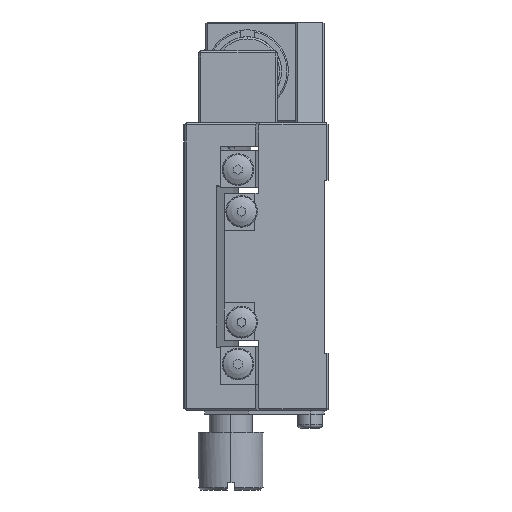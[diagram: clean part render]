
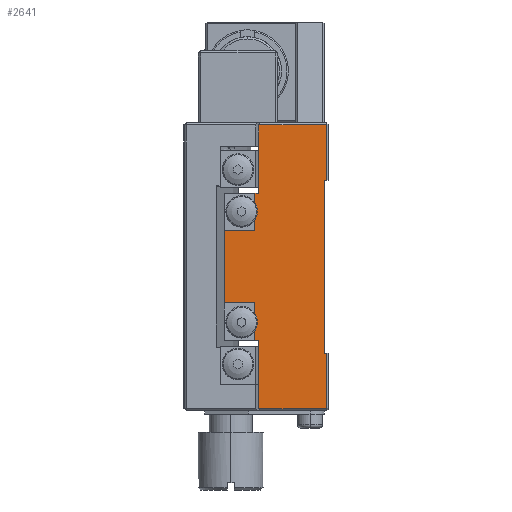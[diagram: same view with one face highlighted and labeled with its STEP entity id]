
A CAD part, left-side view. The second image highlights one B-rep face of the part: STEP entity #2641.
In plain terms, the highlighted planar face has unit normal (-1, 0, 0).
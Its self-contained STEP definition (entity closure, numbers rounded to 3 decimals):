
#311 = VERTEX_POINT ( 'NONE', #12785 ) ;
#324 = DIRECTION ( 'NONE',  ( 0., 0., -1. ) ) ;
#416 = VECTOR ( 'NONE', #7600, 1000. ) ;
#481 = ORIENTED_EDGE ( 'NONE', *, *, #21973, .T. ) ;
#528 = VERTEX_POINT ( 'NONE', #4885 ) ;
#856 = VECTOR ( 'NONE', #5298, 1000. ) ;
#901 = DIRECTION ( 'NONE',  ( 0., -1., 0. ) ) ;
#1108 = ORIENTED_EDGE ( 'NONE', *, *, #21979, .F. ) ;
#1208 = LINE ( 'NONE', #20972, #5024 ) ;
#1220 = VERTEX_POINT ( 'NONE', #11792 ) ;
#1706 = LINE ( 'NONE', #7219, #3067 ) ;
#1873 = ORIENTED_EDGE ( 'NONE', *, *, #19338, .T. ) ;
#2079 = LINE ( 'NONE', #3969, #6743 ) ;
#2199 = EDGE_CURVE ( 'NONE', #3575, #11381, #3131, .T. ) ;
#2272 = VERTEX_POINT ( 'NONE', #8780 ) ;
#2550 = CARTESIAN_POINT ( 'NONE',  ( -20., 9.625, 20. ) ) ;
#2580 = ORIENTED_EDGE ( 'NONE', *, *, #3264, .T. ) ;
#2641 = ADVANCED_FACE ( 'NONE', ( #23062 ), #8155, .F. ) ;
#2784 = LINE ( 'NONE', #16534, #8698 ) ;
#2872 = CARTESIAN_POINT ( 'NONE',  ( -20., 0., 20. ) ) ;
#3067 = VECTOR ( 'NONE', #14525, 1000. ) ;
#3109 = ORIENTED_EDGE ( 'NONE', *, *, #8573, .T. ) ;
#3131 = LINE ( 'NONE', #17583, #17515 ) ;
#3230 = EDGE_CURVE ( 'NONE', #3575, #311, #2079, .T. ) ;
#3264 = EDGE_CURVE ( 'NONE', #528, #14890, #9720, .T. ) ;
#3305 = ORIENTED_EDGE ( 'NONE', *, *, #13864, .F. ) ;
#3358 = CARTESIAN_POINT ( 'NONE',  ( -20., 10.142, 10.2 ) ) ;
#3360 = VECTOR ( 'NONE', #21339, 1000. ) ;
#3575 = VERTEX_POINT ( 'NONE', #9792 ) ;
#3969 = CARTESIAN_POINT ( 'NONE',  ( -20., 10.142, -50.388 ) ) ;
#4539 = LINE ( 'NONE', #7940, #416 ) ;
#4562 = EDGE_CURVE ( 'NONE', #2272, #11092, #18508, .T. ) ;
#4885 = CARTESIAN_POINT ( 'NONE',  ( -20., 9.625, 19.7 ) ) ;
#5024 = VECTOR ( 'NONE', #22612, 1000. ) ;
#5157 = EDGE_CURVE ( 'NONE', #22213, #9610, #9903, .T. ) ;
#5205 = CARTESIAN_POINT ( 'NONE',  ( -20., 14.4, -5. ) ) ;
#5298 = DIRECTION ( 'NONE',  ( 0., 0., 1. ) ) ;
#5390 = DIRECTION ( 'NONE',  ( 0., 0., 1. ) ) ;
#5623 = CARTESIAN_POINT ( 'NONE',  ( -20., 9.625, 20. ) ) ;
#6025 = CARTESIAN_POINT ( 'NONE',  ( -20., 10.142, 5. ) ) ;
#6275 = CARTESIAN_POINT ( 'NONE',  ( -20., 0.2, -19.7 ) ) ;
#6743 = VECTOR ( 'NONE', #5390, 1000. ) ;
#6758 = VECTOR ( 'NONE', #14906, 1000. ) ;
#7030 = AXIS2_PLACEMENT_3D ( 'NONE', #2872, #8943, #11930 ) ;
#7090 = LINE ( 'NONE', #19457, #3360 ) ;
#7149 = VECTOR ( 'NONE', #15790, 1000. ) ;
#7172 = CARTESIAN_POINT ( 'NONE',  ( -20., 0.2, 20. ) ) ;
#7219 = CARTESIAN_POINT ( 'NONE',  ( -20., 0.5, -12. ) ) ;
#7444 = CARTESIAN_POINT ( 'NONE',  ( -20., 0., -19.7 ) ) ;
#7600 = DIRECTION ( 'NONE',  ( 0., -1., 0. ) ) ;
#7734 = LINE ( 'NONE', #16444, #18530 ) ;
#7888 = ORIENTED_EDGE ( 'NONE', *, *, #2199, .T. ) ;
#7940 = CARTESIAN_POINT ( 'NONE',  ( -20., 14.4, -5. ) ) ;
#7956 = CARTESIAN_POINT ( 'NONE',  ( -20., 0.5, -12. ) ) ;
#8073 = VERTEX_POINT ( 'NONE', #7956 ) ;
#8155 = PLANE ( 'NONE',  #7030 ) ;
#8573 = EDGE_CURVE ( 'NONE', #9950, #14443, #17648, .T. ) ;
#8698 = VECTOR ( 'NONE', #901, 1000. ) ;
#8780 = CARTESIAN_POINT ( 'NONE',  ( -20., 14.4, 5. ) ) ;
#8943 = DIRECTION ( 'NONE',  ( 1., 0., 0. ) ) ;
#9036 = VECTOR ( 'NONE', #21369, 1000. ) ;
#9302 = CARTESIAN_POINT ( 'NONE',  ( -20., 0.2, 12. ) ) ;
#9439 = VECTOR ( 'NONE', #16290, 1000. ) ;
#9486 = LINE ( 'NONE', #16670, #13580 ) ;
#9610 = VERTEX_POINT ( 'NONE', #11217 ) ;
#9720 = LINE ( 'NONE', #2550, #6758 ) ;
#9792 = CARTESIAN_POINT ( 'NONE',  ( -20., 10.142, -10.2 ) ) ;
#9903 = LINE ( 'NONE', #11787, #16523 ) ;
#9950 = VERTEX_POINT ( 'NONE', #9302 ) ;
#10069 = ORIENTED_EDGE ( 'NONE', *, *, #12804, .T. ) ;
#10273 = CARTESIAN_POINT ( 'NONE',  ( -20., 9.625, 19.7 ) ) ;
#10522 = ORIENTED_EDGE ( 'NONE', *, *, #21013, .T. ) ;
#11092 = VERTEX_POINT ( 'NONE', #5205 ) ;
#11217 = CARTESIAN_POINT ( 'NONE',  ( -20., 0.2, -12. ) ) ;
#11381 = VERTEX_POINT ( 'NONE', #22869 ) ;
#11750 = EDGE_CURVE ( 'NONE', #14443, #528, #19442, .T. ) ;
#11787 = CARTESIAN_POINT ( 'NONE',  ( -20., 0.2, 20. ) ) ;
#11792 = CARTESIAN_POINT ( 'NONE',  ( -20., 9.625, -19.7 ) ) ;
#11850 = ORIENTED_EDGE ( 'NONE', *, *, #4562, .T. ) ;
#11930 = DIRECTION ( 'NONE',  ( 0., 1., 0. ) ) ;
#12071 = ORIENTED_EDGE ( 'NONE', *, *, #5157, .T. ) ;
#12450 = CARTESIAN_POINT ( 'NONE',  ( -20., 0.5, 12. ) ) ;
#12785 = CARTESIAN_POINT ( 'NONE',  ( -20., 10.142, -5. ) ) ;
#12804 = EDGE_CURVE ( 'NONE', #11092, #311, #4539, .T. ) ;
#12863 = EDGE_CURVE ( 'NONE', #14968, #9950, #2784, .T. ) ;
#12921 = EDGE_CURVE ( 'NONE', #2272, #20842, #9486, .T. ) ;
#13193 = DIRECTION ( 'NONE',  ( 0., 0., 1. ) ) ;
#13580 = VECTOR ( 'NONE', #22183, 1000. ) ;
#13864 = EDGE_CURVE ( 'NONE', #17050, #14890, #7090, .T. ) ;
#13872 = CARTESIAN_POINT ( 'NONE',  ( -20., 9.625, 10.2 ) ) ;
#14206 = CARTESIAN_POINT ( 'NONE',  ( -20., 14.4, 10.2 ) ) ;
#14291 = LINE ( 'NONE', #7444, #9439 ) ;
#14443 = VERTEX_POINT ( 'NONE', #21069 ) ;
#14525 = DIRECTION ( 'NONE',  ( 0., -1., 0. ) ) ;
#14844 = ORIENTED_EDGE ( 'NONE', *, *, #3230, .F. ) ;
#14890 = VERTEX_POINT ( 'NONE', #13872 ) ;
#14906 = DIRECTION ( 'NONE',  ( 0., 0., -1. ) ) ;
#14968 = VERTEX_POINT ( 'NONE', #12450 ) ;
#15790 = DIRECTION ( 'NONE',  ( 0., 1., 0. ) ) ;
#16290 = DIRECTION ( 'NONE',  ( 0., -1., 0. ) ) ;
#16444 = CARTESIAN_POINT ( 'NONE',  ( -20., 10.142, 50.388 ) ) ;
#16523 = VECTOR ( 'NONE', #13193, 1000. ) ;
#16534 = CARTESIAN_POINT ( 'NONE',  ( -20., 0.5, 12. ) ) ;
#16670 = CARTESIAN_POINT ( 'NONE',  ( -20., 10.163, 5. ) ) ;
#17050 = VERTEX_POINT ( 'NONE', #3358 ) ;
#17515 = VECTOR ( 'NONE', #21238, 1000. ) ;
#17539 = VECTOR ( 'NONE', #19990, 1000. ) ;
#17583 = CARTESIAN_POINT ( 'NONE',  ( -20., 9.625, -10.2 ) ) ;
#17648 = LINE ( 'NONE', #7172, #856 ) ;
#17666 = ORIENTED_EDGE ( 'NONE', *, *, #11750, .T. ) ;
#17842 = ORIENTED_EDGE ( 'NONE', *, *, #12863, .T. ) ;
#18299 = ORIENTED_EDGE ( 'NONE', *, *, #22898, .T. ) ;
#18508 = LINE ( 'NONE', #14206, #9036 ) ;
#18530 = VECTOR ( 'NONE', #324, 1000. ) ;
#19338 = EDGE_CURVE ( 'NONE', #17050, #20842, #7734, .T. ) ;
#19442 = LINE ( 'NONE', #10273, #7149 ) ;
#19457 = CARTESIAN_POINT ( 'NONE',  ( -20., 9.625, 10.2 ) ) ;
#19990 = DIRECTION ( 'NONE',  ( 0., 0., -1. ) ) ;
#20842 = VERTEX_POINT ( 'NONE', #6025 ) ;
#20972 = CARTESIAN_POINT ( 'NONE',  ( -20., 0.5, 20. ) ) ;
#21013 = EDGE_CURVE ( 'NONE', #8073, #14968, #1208, .T. ) ;
#21069 = CARTESIAN_POINT ( 'NONE',  ( -20., 0.2, 19.7 ) ) ;
#21238 = DIRECTION ( 'NONE',  ( 0., -1., 0. ) ) ;
#21267 = ORIENTED_EDGE ( 'NONE', *, *, #12921, .F. ) ;
#21339 = DIRECTION ( 'NONE',  ( 0., -1., 0. ) ) ;
#21369 = DIRECTION ( 'NONE',  ( 0., 0., -1. ) ) ;
#21754 = LINE ( 'NONE', #5623, #17539 ) ;
#21973 = EDGE_CURVE ( 'NONE', #1220, #22213, #14291, .T. ) ;
#21979 = EDGE_CURVE ( 'NONE', #8073, #9610, #1706, .T. ) ;
#22183 = DIRECTION ( 'NONE',  ( 0., -1., 0. ) ) ;
#22213 = VERTEX_POINT ( 'NONE', #6275 ) ;
#22453 = EDGE_LOOP ( 'NONE', ( #17842, #3109, #17666, #2580, #3305, #1873, #21267, #11850, #10069, #14844, #7888, #18299, #481, #12071, #1108, #10522 ) ) ;
#22612 = DIRECTION ( 'NONE',  ( 0., 0., 1. ) ) ;
#22869 = CARTESIAN_POINT ( 'NONE',  ( -20., 9.625, -10.2 ) ) ;
#22898 = EDGE_CURVE ( 'NONE', #11381, #1220, #21754, .T. ) ;
#23062 = FACE_OUTER_BOUND ( 'NONE', #22453, .T. ) ;
